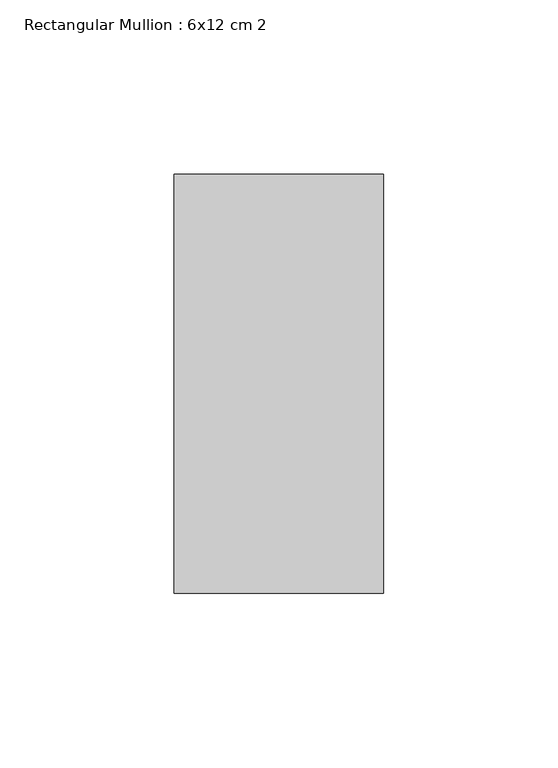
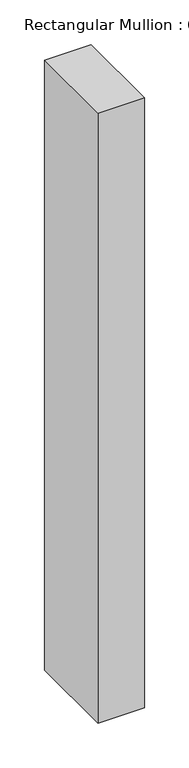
"""IFC4 building model written with IfcOpenShell, lengths in millimetres: member geometry, Rectangular Mullion : 6x12 cm 2."""

from ifc_helpers import new_model, si_unit, frame, origin, place, context, project, spatial, polyline, outline, extrude, source, transform, mapped, element, save


def rectangular_mullion_6x12_cm_2_e385c3ca(model_context):
    return source(origin(), model_context, "Body", "SweptSolid", [
        extrude(outline(polyline([(0.0, 205.0), (0.0, 85.0), (-60.0, 85.0), (-60.0, 205.0), (0.0, 205.0)])), frame((0.0, 0.0, -833.8713217), z_axis=(0.0, 0.0, 1.0), x_axis=(1.0, 0.0, 0.0)), (0.0, 0.0, 1.0), 833.8713217),
    ])


if __name__ == "__main__":
    model = new_model("IFC4")
    model_context = context("Model", 3, world=origin())
    ifc_project = project(units=[si_unit("LENGTHUNIT", "METRE", prefix="MILLI")], contexts=[model_context])
    site = spatial("IfcSite", under=ifc_project)
    building = spatial("IfcBuilding", under=site)
    placement = place(None, origin())
    rectangular_mullion_6x12_cm_2_shape = rectangular_mullion_6x12_cm_2_e385c3ca(model_context)
    element("IfcMember", 1, ObjectType="Rectangular Mullion : 6x12 cm 2", at=placement, inside=building, context=model_context, shape_type="MappedRepresentation", body=[
        mapped(rectangular_mullion_6x12_cm_2_shape, transform((0.0, 0.0, 0.0), x_axis=(1.0, 0.0, 0.0), y_axis=(0.0, 1.0, 0.0), z_axis=(0.0, 0.0, 1.0))),
    ])
    save(model, "model.ifc")
